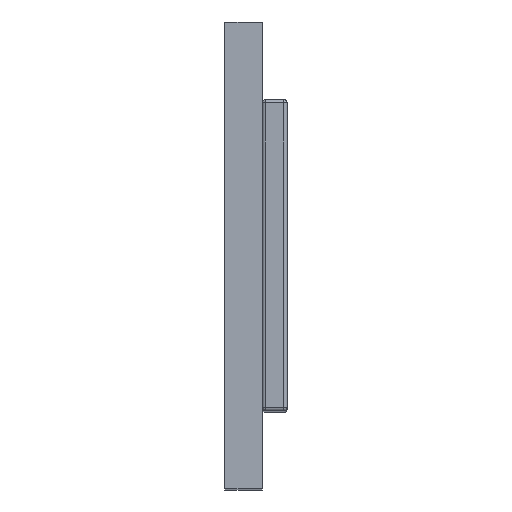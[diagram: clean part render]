
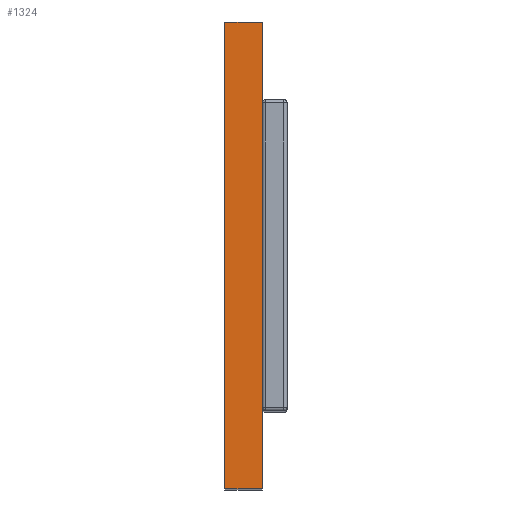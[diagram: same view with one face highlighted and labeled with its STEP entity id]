
A CAD part, top view. The second image highlights one B-rep face of the part: STEP entity #1324.
In plain terms, the highlighted planar face has unit normal (0, 0, 1).
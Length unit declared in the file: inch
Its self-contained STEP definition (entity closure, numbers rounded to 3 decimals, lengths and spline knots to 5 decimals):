
#1 = CARTESIAN_POINT ( 'NONE',  ( 0., 0., 5.03937 ) ) ;
#50 = ORIENTED_EDGE ( 'NONE', *, *, #1450, .T. ) ;
#87 = DIRECTION ( 'NONE',  ( 0., -1., 0. ) ) ;
#303 = EDGE_CURVE ( 'NONE', #3029, #383, #3399, .T. ) ;
#368 = CARTESIAN_POINT ( 'NONE',  ( 0., 0., 5.03937 ) ) ;
#383 = VERTEX_POINT ( 'NONE', #984 ) ;
#632 = ORIENTED_EDGE ( 'NONE', *, *, #303, .F. ) ;
#645 = CARTESIAN_POINT ( 'NONE',  ( 0., 0., 5.03937 ) ) ;
#696 = VERTEX_POINT ( 'NONE', #2524 ) ;
#959 = CARTESIAN_POINT ( 'NONE',  ( 0., 2.95276, 5.03937 ) ) ;
#984 = CARTESIAN_POINT ( 'NONE',  ( 0.23622, 0., 5.03937 ) ) ;
#1078 = ORIENTED_EDGE ( 'NONE', *, *, #1426, .T. ) ;
#1090 = LINE ( 'NONE', #368, #3583 ) ;
#1290 = ORIENTED_EDGE ( 'NONE', *, *, #2003, .F. ) ;
#1292 = VERTEX_POINT ( 'NONE', #3765 ) ;
#1305 = DIRECTION ( 'NONE',  ( 0., -1., 0. ) ) ;
#1324 = ADVANCED_FACE ( 'NONE', ( #4018 ), #2893, .F. ) ;
#1408 = VECTOR ( 'NONE', #1305, 39.37008 ) ;
#1426 = EDGE_CURVE ( 'NONE', #696, #383, #2927, .T. ) ;
#1450 = EDGE_CURVE ( 'NONE', #1292, #696, #1090, .T. ) ;
#1608 = EDGE_LOOP ( 'NONE', ( #1078, #632, #1290, #50 ) ) ;
#1899 = DIRECTION ( 'NONE',  ( -1., 0., 0. ) ) ;
#1927 = VECTOR ( 'NONE', #3512, 39.37008 ) ;
#2003 = EDGE_CURVE ( 'NONE', #1292, #3029, #3664, .T. ) ;
#2199 = DIRECTION ( 'NONE',  ( 0., 0., -1. ) ) ;
#2228 = AXIS2_PLACEMENT_3D ( 'NONE', #1, #2199, #1899 ) ;
#2524 = CARTESIAN_POINT ( 'NONE',  ( 0., 0., 5.03937 ) ) ;
#2571 = VECTOR ( 'NONE', #3536, 39.37008 ) ;
#2893 = PLANE ( 'NONE',  #2228 ) ;
#2927 = LINE ( 'NONE', #645, #1927 ) ;
#3029 = VERTEX_POINT ( 'NONE', #3984 ) ;
#3194 = CARTESIAN_POINT ( 'NONE',  ( 0.23622, 0., 5.03937 ) ) ;
#3399 = LINE ( 'NONE', #3194, #1408 ) ;
#3512 = DIRECTION ( 'NONE',  ( 1., 0., 0. ) ) ;
#3536 = DIRECTION ( 'NONE',  ( 1., 0., 0. ) ) ;
#3583 = VECTOR ( 'NONE', #87, 39.37008 ) ;
#3664 = LINE ( 'NONE', #959, #2571 ) ;
#3765 = CARTESIAN_POINT ( 'NONE',  ( 0., 2.95276, 5.03937 ) ) ;
#3984 = CARTESIAN_POINT ( 'NONE',  ( 0.23622, 2.95276, 5.03937 ) ) ;
#4018 = FACE_OUTER_BOUND ( 'NONE', #1608, .T. ) ;
